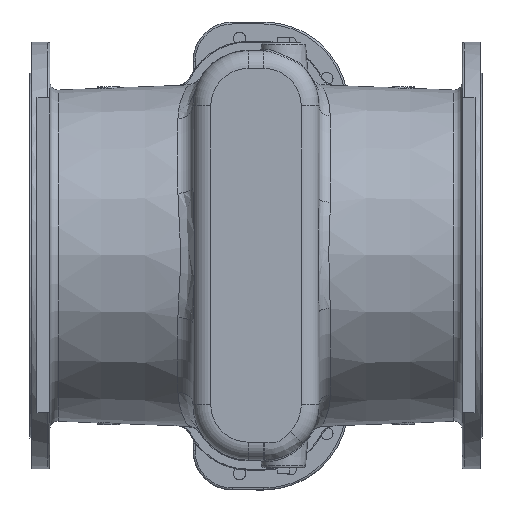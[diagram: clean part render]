
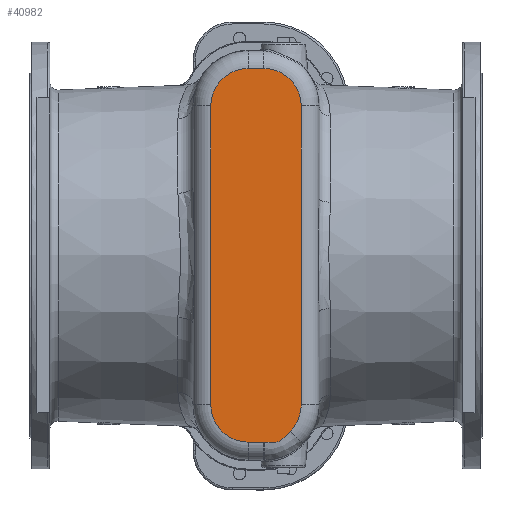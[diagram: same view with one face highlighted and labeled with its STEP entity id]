
A CAD part, top view. The second image highlights one B-rep face of the part: STEP entity #40982.
In plain terms, the highlighted planar face has unit normal (0, 0, 1).
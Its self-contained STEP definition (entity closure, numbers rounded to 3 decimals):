
#4235=FACE_OUTER_BOUND('',#6856,.T.);
#6856=EDGE_LOOP('',(#35532,#35533,#35534,#35535,#35536,#35537,#35538,#35539,
#35540,#35541));
#9508=LINE('',#98931,#12121);
#9509=LINE('',#98935,#12122);
#9510=LINE('',#98966,#12123);
#9511=LINE('',#98970,#12124);
#12121=VECTOR('',#54961,10.);
#12122=VECTOR('',#54964,10.);
#12123=VECTOR('',#54969,10.);
#12124=VECTOR('',#54972,10.);
#13680=B_SPLINE_CURVE_WITH_KNOTS('',3,(#98939,#98940,#98941,#98942,#98943,
#98944,#98945,#98946,#98947,#98948,#98949,#98950,#98951,#98952,#98953,#98954,
#98955,#98956,#98957,#98958,#98959,#98960,#98961,#98962),.UNSPECIFIED.,
 .F.,.F.,(4,1,1,1,1,1,1,1,1,1,1,1,1,1,1,1,1,1,1,1,1,4),(0.,
1.096,1.643,1.917,2.191,2.921,
3.104,3.195,3.287,3.652,4.017,
4.382,4.747,5.112,5.478,5.569,
5.66,5.843,6.025,6.208,6.573,
7.669),.UNSPECIFIED.);
#15601=CIRCLE('',#45064,95.);
#15602=CIRCLE('',#45065,95.);
#15603=CIRCLE('',#45066,95.);
#15604=CIRCLE('',#45067,95.);
#15605=CIRCLE('',#45068,95.);
#19164=VERTEX_POINT('',#98929);
#19165=VERTEX_POINT('',#98930);
#19166=VERTEX_POINT('',#98932);
#19167=VERTEX_POINT('',#98934);
#19168=VERTEX_POINT('',#98936);
#19169=VERTEX_POINT('',#98938);
#19170=VERTEX_POINT('',#98963);
#19171=VERTEX_POINT('',#98965);
#19172=VERTEX_POINT('',#98967);
#19173=VERTEX_POINT('',#98969);
#24806=EDGE_CURVE('',#19164,#19165,#9508,.T.);
#24807=EDGE_CURVE('',#19166,#19164,#15601,.T.);
#24808=EDGE_CURVE('',#19167,#19166,#9509,.T.);
#24809=EDGE_CURVE('',#19168,#19167,#15602,.T.);
#24810=EDGE_CURVE('',#19169,#19168,#13680,.T.);
#24811=EDGE_CURVE('',#19170,#19169,#15603,.T.);
#24812=EDGE_CURVE('',#19171,#19170,#9510,.T.);
#24813=EDGE_CURVE('',#19172,#19171,#15604,.T.);
#24814=EDGE_CURVE('',#19173,#19172,#9511,.T.);
#24815=EDGE_CURVE('',#19165,#19173,#15605,.T.);
#35532=ORIENTED_EDGE('',*,*,#24806,.F.);
#35533=ORIENTED_EDGE('',*,*,#24807,.F.);
#35534=ORIENTED_EDGE('',*,*,#24808,.F.);
#35535=ORIENTED_EDGE('',*,*,#24809,.F.);
#35536=ORIENTED_EDGE('',*,*,#24810,.F.);
#35537=ORIENTED_EDGE('',*,*,#24811,.F.);
#35538=ORIENTED_EDGE('',*,*,#24812,.F.);
#35539=ORIENTED_EDGE('',*,*,#24813,.F.);
#35540=ORIENTED_EDGE('',*,*,#24814,.F.);
#35541=ORIENTED_EDGE('',*,*,#24815,.F.);
#38787=PLANE('',#45063);
#40982=ADVANCED_FACE('',(#4235),#38787,.T.);
#45063=AXIS2_PLACEMENT_3D('',#98928,#54959,#54960);
#45064=AXIS2_PLACEMENT_3D('',#98933,#54962,#54963);
#45065=AXIS2_PLACEMENT_3D('',#98937,#54965,#54966);
#45066=AXIS2_PLACEMENT_3D('',#98964,#54967,#54968);
#45067=AXIS2_PLACEMENT_3D('',#98968,#54970,#54971);
#45068=AXIS2_PLACEMENT_3D('',#98971,#54973,#54974);
#54959=DIRECTION('center_axis',(0.,0.,1.));
#54960=DIRECTION('ref_axis',(1.,0.,0.));
#54961=DIRECTION('',(0.,1.,0.));
#54962=DIRECTION('center_axis',(0.,0.,-1.));
#54963=DIRECTION('ref_axis',(-0.707,-0.707,0.));
#54964=DIRECTION('',(-1.,0.,0.));
#54965=DIRECTION('center_axis',(0.,0.,-1.));
#54966=DIRECTION('ref_axis',(0.707,-0.707,0.));
#54967=DIRECTION('center_axis',(0.,0.,-1.));
#54968=DIRECTION('ref_axis',(0.707,-0.707,0.));
#54969=DIRECTION('',(0.,-1.,0.));
#54970=DIRECTION('center_axis',(0.,0.,-1.));
#54971=DIRECTION('ref_axis',(0.707,0.707,0.));
#54972=DIRECTION('',(1.,0.,0.));
#54973=DIRECTION('center_axis',(0.,0.,-1.));
#54974=DIRECTION('ref_axis',(-0.707,0.707,0.));
#98928=CARTESIAN_POINT('Origin',(0.,0.,
1020.));
#98929=CARTESIAN_POINT('',(-115.,-380.,1020.));
#98930=CARTESIAN_POINT('',(-115.,380.,1020.));
#98931=CARTESIAN_POINT('',(-115.,-190.,1020.));
#98932=CARTESIAN_POINT('',(-20.,-475.,1020.));
#98933=CARTESIAN_POINT('Origin',(-20.,-380.,1020.));
#98934=CARTESIAN_POINT('',(20.,-475.,1020.));
#98935=CARTESIAN_POINT('',(10.,-475.,1020.));
#98936=CARTESIAN_POINT('',(21.322,-474.991,1020.));
#98937=CARTESIAN_POINT('Origin',(20.,-380.,1020.));
#98938=CARTESIAN_POINT('',(87.287,-447.063,1020.));
#98939=CARTESIAN_POINT('Ctrl Pts',(87.287,-447.063,1020.));
#98940=CARTESIAN_POINT('Ctrl Pts',(84.709,-449.65,1020.));
#98941=CARTESIAN_POINT('Ctrl Pts',(80.961,-453.647,1020.));
#98942=CARTESIAN_POINT('Ctrl Pts',(76.587,-458.308,1020.));
#98943=CARTESIAN_POINT('Ctrl Pts',(74.05,-460.934,1020.));
#98944=CARTESIAN_POINT('Ctrl Pts',(71.043,-463.95,1020.));
#98945=CARTESIAN_POINT('Ctrl Pts',(68.139,-466.647,1020.));
#98946=CARTESIAN_POINT('Ctrl Pts',(65.528,-468.743,1020.));
#98947=CARTESIAN_POINT('Ctrl Pts',(64.559,-469.481,1020.));
#98948=CARTESIAN_POINT('Ctrl Pts',(63.086,-470.561,1020.));
#98949=CARTESIAN_POINT('Ctrl Pts',(60.796,-472.07,1020.));
#98950=CARTESIAN_POINT('Ctrl Pts',(57.549,-473.759,1020.));
#98951=CARTESIAN_POINT('Ctrl Pts',(54.103,-475.022,1020.));
#98952=CARTESIAN_POINT('Ctrl Pts',(50.522,-475.787,1020.));
#98953=CARTESIAN_POINT('Ctrl Pts',(46.854,-476.103,1020.));
#98954=CARTESIAN_POINT('Ctrl Pts',(44.118,-476.098,1020.));
#98955=CARTESIAN_POINT('Ctrl Pts',(42.294,-476.037,1020.));
#98956=CARTESIAN_POINT('Ctrl Pts',(41.079,-475.984,1020.));
#98957=CARTESIAN_POINT('Ctrl Pts',(39.561,-475.897,1020.));
#98958=CARTESIAN_POINT('Ctrl Pts',(37.739,-475.771,1020.));
#98959=CARTESIAN_POINT('Ctrl Pts',(35.31,-475.59,1020.));
#98960=CARTESIAN_POINT('Ctrl Pts',(29.841,-475.172,1020.));
#98961=CARTESIAN_POINT('Ctrl Pts',(24.973,-474.94,1020.));
#98962=CARTESIAN_POINT('Ctrl Pts',(21.322,-474.991,1020.));
#98963=CARTESIAN_POINT('',(115.,-380.,1020.));
#98964=CARTESIAN_POINT('Origin',(20.,-380.,1020.));
#98965=CARTESIAN_POINT('',(115.,380.,1020.));
#98966=CARTESIAN_POINT('',(115.,190.,1020.));
#98967=CARTESIAN_POINT('',(20.,475.,1020.));
#98968=CARTESIAN_POINT('Origin',(20.,380.,1020.));
#98969=CARTESIAN_POINT('',(-20.,475.,1020.));
#98970=CARTESIAN_POINT('',(-10.,475.,1020.));
#98971=CARTESIAN_POINT('Origin',(-20.,380.,1020.));
